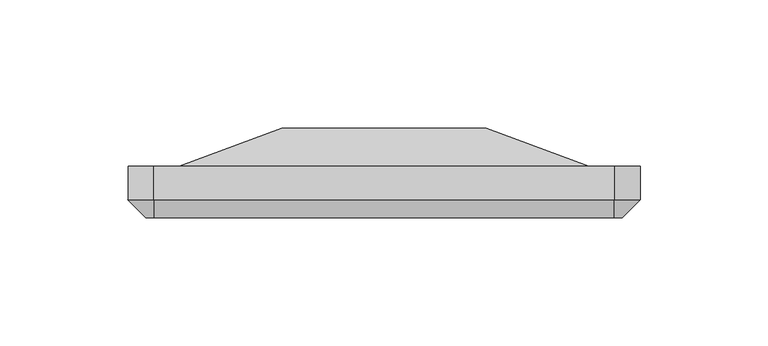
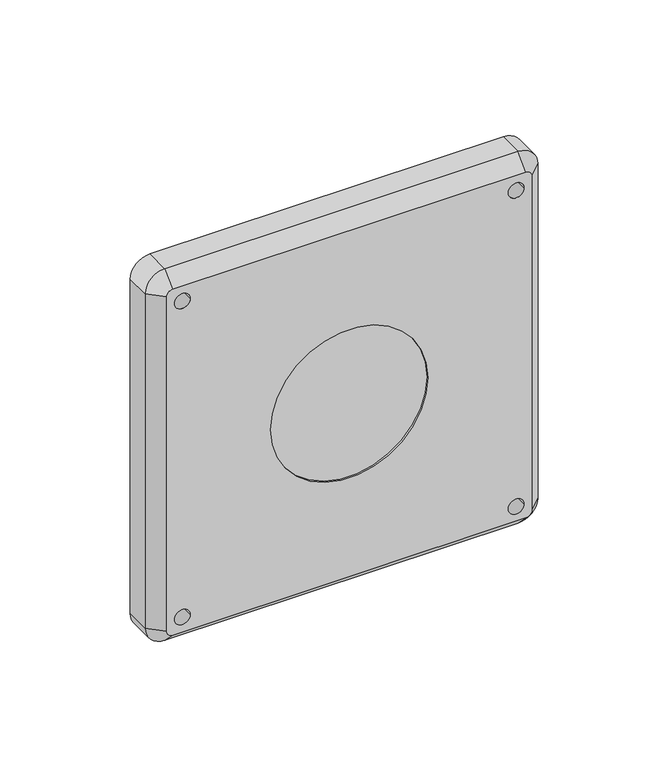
"""IFC4 building model written with IfcOpenShell, lengths in millimetres: light fixture geometry, GENILED_Светильник светодиодный_Public : Public 15W 4200К."""

from ifc_helpers import new_model, si_unit, frame, origin, place, context, project, spatial, polyline, circle_curve, source, transform, mapped, element, save
from ifc_brep_helpers import plane_surface, cylinder_surface, revolved_surface, advanced_brep


def light_fixture_b82a3ef1(model_context):
    return source(origin(), model_context, "Body", "AdvancedBrep", [
        advanced_brep(
        [(-90.0, -35.0, 193.0), (-93.0, -35.0, 190.0), (-93.0, -35.0, 10.0), (-90.0, -35.0, 7.0), (90.0, -35.0, 7.0), (93.0, -35.0, 10.0), (93.0, -35.0, 190.0), (90.0, -35.0, 193.0), (-89.0502525, -35.0, 185.0502525), (-81.0502525, -35.0, 185.0502525), (81.0502525, -35.0, 185.0502525), (89.0502525, -35.0, 185.0502525), (-89.0502525, -35.0, 14.9497475), (-81.0502525, -35.0, 14.9497475), (81.0502525, -35.0, 14.9497475), (89.0502525, -35.0, 14.9497475), (40.0, -35.0, 100.0), (-40.0, -35.0, 100.0), (90.0, -15.0, 200.0), (100.0, -15.0, 190.0), (100.0, -15.0, 10.0), (90.0, -15.0, 0.0), (-90.0, -15.0, 0.0), (-100.0, -15.0, 10.0), (-100.0, -15.0, 190.0), (-90.0, -15.0, 200.0), (-89.0502525, -15.0, 185.0502525), (-81.0502525, -15.0, 185.0502525), (81.0502525, -15.0, 185.0502525), (89.0502525, -15.0, 185.0502525), (-89.0502525, -15.0, 14.9497475), (-81.0502525, -15.0, 14.9497475), (81.0502525, -15.0, 14.9497475), (89.0502525, -15.0, 14.9497475), (80.0, -15.0, 180.0), (-80.0, -15.0, 180.0), (-80.0, -15.0, 20.0), (80.0, -15.0, 20.0), (-90.0, -28.0, 200.0), (90.0, -28.0, 200.0), (-100.0, -28.0, 190.0), (-100.0, -28.0, 10.0), (-90.0, -28.0, 0.0), (90.0, -28.0, 0.0), (100.0, -28.0, 10.0), (100.0, -28.0, 190.0), (-40.0, -34.0, 100.0), (40.0, -34.0, 100.0), (40.0, 0.0, 140.0), (40.0, 0.0, 60.0), (-40.0, 0.0, 60.0), (-40.0, 0.0, 140.0)],
        [
            (0, 1, circle_curve(frame((-90.0, -35.0, 190.0), z_axis=(0.0, -1.0, 0.0), x_axis=(0.0, 0.0, 1.0)), 3.0)),
            (1, 2),
            (2, 3, circle_curve(frame((-90.0, -35.0, 10.0), z_axis=(0.0, -1.0, 0.0), x_axis=(-1.0, 0.0, 0.0)), 3.0)),
            (3, 4),
            (4, 5, circle_curve(frame((90.0, -35.0, 10.0), z_axis=(0.0, -1.0, 0.0), x_axis=(0.0, 0.0, -1.0)), 3.0)),
            (5, 6),
            (6, 7, circle_curve(frame((90.0, -35.0, 190.0), z_axis=(0.0, -1.0, 0.0), x_axis=(1.0, 0.0, 0.0)), 3.0)),
            (7, 0),
            (8, 9, circle_curve(frame((-85.0502525, -35.0, 185.0502525), z_axis=(0.0, 1.0, 0.0), x_axis=(1.0, 0.0, 0.0)), 4.0)),
            (9, 8, circle_curve(frame((-85.0502525, -35.0, 185.0502525), z_axis=(0.0, 1.0, 0.0), x_axis=(1.0, 0.0, 0.0)), 4.0)),
            (10, 11, circle_curve(frame((85.0502525, -35.0, 185.0502525), z_axis=(0.0, 1.0, 0.0), x_axis=(1.0, 0.0, 0.0)), 4.0)),
            (11, 10, circle_curve(frame((85.0502525, -35.0, 185.0502525), z_axis=(0.0, 1.0, 0.0), x_axis=(1.0, 0.0, 0.0)), 4.0)),
            (12, 13, circle_curve(frame((-85.0502525, -35.0, 14.9497475), z_axis=(0.0, 1.0, 0.0), x_axis=(1.0, 0.0, 0.0)), 4.0)),
            (13, 12, circle_curve(frame((-85.0502525, -35.0, 14.9497475), z_axis=(0.0, 1.0, 0.0), x_axis=(1.0, 0.0, 0.0)), 4.0)),
            (14, 15, circle_curve(frame((85.0502525, -35.0, 14.9497475), z_axis=(0.0, 1.0, 0.0), x_axis=(1.0, 0.0, 0.0)), 4.0)),
            (15, 14, circle_curve(frame((85.0502525, -35.0, 14.9497475), z_axis=(0.0, 1.0, 0.0), x_axis=(1.0, 0.0, 0.0)), 4.0)),
            (16, 17, circle_curve(frame((0.0, -35.0, 100.0), z_axis=(0.0, 1.0, 0.0), x_axis=(1.0, 0.0, 0.0)), 40.0)),
            (17, 16, circle_curve(frame((0.0, -35.0, 100.0), z_axis=(0.0, 1.0, 0.0), x_axis=(1.0, 0.0, 0.0)), 40.0)),
            (18, 19, circle_curve(frame((90.0, -15.0, 190.0), z_axis=(0.0, 1.0, 0.0), x_axis=(1.0, 0.0, 0.0)), 10.0)),
            (19, 20),
            (20, 21, circle_curve(frame((90.0, -15.0, 10.0), z_axis=(0.0, 1.0, 0.0), x_axis=(1.0, 0.0, 0.0)), 10.0)),
            (21, 22),
            (22, 23, circle_curve(frame((-90.0, -15.0, 10.0), z_axis=(0.0, 1.0, 0.0), x_axis=(1.0, 0.0, 0.0)), 10.0)),
            (23, 24),
            (24, 25, circle_curve(frame((-90.0, -15.0, 190.0), z_axis=(0.0, 1.0, 0.0), x_axis=(1.0, 0.0, 0.0)), 10.0)),
            (25, 18),
            (26, 27, circle_curve(frame((-85.0502525, -15.0, 185.0502525), z_axis=(0.0, -1.0, 0.0), x_axis=(1.0, 0.0, 0.0)), 4.0)),
            (27, 26, circle_curve(frame((-85.0502525, -15.0, 185.0502525), z_axis=(0.0, -1.0, 0.0), x_axis=(1.0, 0.0, 0.0)), 4.0)),
            (28, 29, circle_curve(frame((85.0502525, -15.0, 185.0502525), z_axis=(0.0, -1.0, 0.0), x_axis=(1.0, 0.0, 0.0)), 4.0)),
            (29, 28, circle_curve(frame((85.0502525, -15.0, 185.0502525), z_axis=(0.0, -1.0, 0.0), x_axis=(1.0, 0.0, 0.0)), 4.0)),
            (30, 31, circle_curve(frame((-85.0502525, -15.0, 14.9497475), z_axis=(0.0, -1.0, 0.0), x_axis=(1.0, 0.0, 0.0)), 4.0)),
            (31, 30, circle_curve(frame((-85.0502525, -15.0, 14.9497475), z_axis=(0.0, -1.0, 0.0), x_axis=(1.0, 0.0, 0.0)), 4.0)),
            (32, 33, circle_curve(frame((85.0502525, -15.0, 14.9497475), z_axis=(0.0, -1.0, 0.0), x_axis=(1.0, 0.0, 0.0)), 4.0)),
            (33, 32, circle_curve(frame((85.0502525, -15.0, 14.9497475), z_axis=(0.0, -1.0, 0.0), x_axis=(1.0, 0.0, 0.0)), 4.0)),
            (34, 35),
            (35, 36),
            (36, 37),
            (37, 34),
            (25, 38),
            (38, 39),
            (39, 18),
            (24, 40),
            (40, 38, circle_curve(frame((-90.0, -28.0, 190.0), z_axis=(0.0, 1.0, 0.0), x_axis=(1.0, 0.0, 0.0)), 10.0)),
            (23, 41),
            (41, 40),
            (22, 42),
            (42, 41, circle_curve(frame((-90.0, -28.0, 10.0), z_axis=(0.0, 1.0, 0.0), x_axis=(1.0, 0.0, 0.0)), 10.0)),
            (21, 43),
            (43, 42),
            (20, 44),
            (44, 43, circle_curve(frame((90.0, -28.0, 10.0), z_axis=(0.0, 1.0, 0.0), x_axis=(1.0, 0.0, 0.0)), 10.0)),
            (19, 45),
            (45, 44),
            (39, 45, circle_curve(frame((90.0, -28.0, 190.0), z_axis=(0.0, 1.0, 0.0), x_axis=(1.0, 0.0, 0.0)), 10.0)),
            (8, 26),
            (27, 9),
            (10, 28),
            (29, 11),
            (12, 30),
            (31, 13),
            (14, 32),
            (33, 15),
            (40, 1),
            (0, 38),
            (41, 2),
            (42, 3),
            (43, 4),
            (44, 5),
            (45, 6),
            (39, 7),
            (46, 47, circle_curve(frame((0.0, -34.0, 100.0), z_axis=(0.0, -1.0, 0.0), x_axis=(1.0, 0.0, 0.0)), 40.0)),
            (47, 46, circle_curve(frame((0.0, -34.0, 100.0), z_axis=(0.0, -1.0, 0.0), x_axis=(1.0, 0.0, 0.0)), 40.0)),
            (46, 17),
            (16, 47),
            (48, 49),
            (49, 50),
            (50, 51),
            (51, 48),
            (51, 35),
            (34, 48),
            (50, 36),
            (49, 37),
        ],
        [
            plane_surface(frame((-90.0, -35.0, 200.0), z_axis=(0.0, -1.0, 0.0), x_axis=(-1.0, 0.0, 0.0))),
            plane_surface(frame((-90.0, -15.0, 200.0), z_axis=(0.0, 1.0, 0.0), x_axis=(1.0, 0.0, 0.0))),
            plane_surface(frame((90.0, -35.0, 200.0), z_axis=(0.0, 0.0, 1.0), x_axis=(0.0, 1.0, 0.0))),
            cylinder_surface(frame((-90.0, -15.0, 190.0), z_axis=(0.0, -1.0, 0.0), x_axis=(1.0, 0.0, 0.0)), 10.0),
            plane_surface(frame((-100.0, -35.0, 190.0), z_axis=(-1.0, 0.0, 0.0), x_axis=(0.0, 1.0, 0.0))),
            cylinder_surface(frame((-90.0, -15.0, 10.0), z_axis=(0.0, -1.0, 0.0), x_axis=(1.0, 0.0, 0.0)), 10.0),
            plane_surface(frame((-90.0, -35.0, 0.0), z_axis=(0.0, 0.0, -1.0), x_axis=(0.0, 1.0, 0.0))),
            cylinder_surface(frame((90.0, -15.0, 10.0), z_axis=(0.0, -1.0, 0.0), x_axis=(1.0, 0.0, 0.0)), 10.0),
            plane_surface(frame((100.0, -35.0, 10.0), z_axis=(1.0, 0.0, 0.0), x_axis=(0.0, 1.0, 0.0))),
            cylinder_surface(frame((90.0, -15.0, 190.0), z_axis=(0.0, -1.0, 0.0), x_axis=(1.0, 0.0, 0.0)), 10.0),
            revolved_surface(polyline([(-81.0502525, -15.0, 185.0502525), (-81.0502525, -35.0, 185.0502525)]), (-85.0502525, 0.0, 185.0502525), (0.0, 1.0, 0.0)),
            revolved_surface(polyline([(89.0502525, -15.0, 185.0502525), (89.0502525, -35.0, 185.0502525)]), (85.0502525, 0.0, 185.0502525), (0.0, 1.0, 0.0)),
            revolved_surface(polyline([(-81.0502525, -15.0, 14.9497475), (-81.0502525, -35.0, 14.9497475)]), (-85.0502525, 0.0, 14.9497475), (0.0, 1.0, 0.0)),
            revolved_surface(polyline([(89.0502525, -15.0, 14.9497475), (89.0502525, -35.0, 14.9497475)]), (85.0502525, 0.0, 14.9497475), (0.0, 1.0, 0.0)),
            revolved_surface(polyline([(-90.0, -28.0, 200.0), (-90.0, -35.0, 193.0)]), (-90.0, -35.0, 190.0), (0.0, -1.0, 0.0)),
            plane_surface(frame((-93.0, -35.0, 190.0), z_axis=(-0.7071067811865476, -0.7071067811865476, 0.0), x_axis=(0.0, 0.0, -1.0))),
            revolved_surface(polyline([(-100.0, -28.0, 10.0), (-93.0, -35.0, 10.0)]), (-90.0, -35.0, 10.0), (0.0, -1.0, 0.0)),
            plane_surface(frame((-90.0, -35.0, 7.0), z_axis=(0.0, -0.7071067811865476, -0.7071067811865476), x_axis=(1.0, 0.0, 0.0))),
            revolved_surface(polyline([(90.0, -28.0, 0.0), (90.0, -35.0, 7.0)]), (90.0, -35.0, 10.0), (0.0, -1.0, 0.0)),
            plane_surface(frame((93.0, -35.0, 10.0), z_axis=(0.7071067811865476, -0.7071067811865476, 0.0), x_axis=(0.0, 0.0, 1.0))),
            revolved_surface(polyline([(100.0, -28.0, 190.0), (93.0, -35.0, 190.0)]), (90.0, -35.0, 190.0), (0.0, -1.0, 0.0)),
            plane_surface(frame((90.0, -35.0, 193.0), z_axis=(0.0, -0.7071067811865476, 0.7071067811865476), x_axis=(-1.0, 0.0, 0.0))),
            plane_surface(frame((40.0, -34.0, 100.0), z_axis=(0.0, -1.0, 0.0), x_axis=(0.0, 0.0, -1.0))),
            revolved_surface(polyline([(40.0, -35.0, 100.0), (40.0, -34.0, 100.0)]), (0.0, -34.0, 100.0), (0.0, -1.0, 0.0)),
            plane_surface(frame((0.0, 0.0, 100.0), z_axis=(0.0, 1.0, 0.0), x_axis=(-1.0, 0.0, 0.0))),
            plane_surface(frame((0.0, -15.0, 180.0), z_axis=(0.0, 0.9363291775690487, 0.3511234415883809), x_axis=(1.0, 0.0, 0.0))),
            plane_surface(frame((-80.0, -15.0, 100.0), z_axis=(-0.3511234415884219, 0.9363291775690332, 0.0), x_axis=(0.0, 0.0, 1.0))),
            plane_surface(frame((0.0, -15.0, 20.0), z_axis=(0.0, 0.936329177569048, -0.35112344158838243), x_axis=(-1.0, 0.0, 0.0))),
            plane_surface(frame((80.0, -15.0, 100.0), z_axis=(0.3511234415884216, 0.9363291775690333, 0.0), x_axis=(0.0, 0.0, -1.0))),
        ],
        [
            (0, [[1, 2, 3, 4, 5, 6, 7, 8], [9, 10], [11, 12], [13, 14], [15, 16], [17, 18]]),
            (1, [[19, 20, 21, 22, 23, 24, 25, 26], [27, 28], [29, 30], [31, 32], [33, 34], [35, 36, 37, 38]]),
            (2, [[-26, 39, 40, 41]]),
            (3, [[-25, 42, 43, -39]]),
            (4, [[-24, 44, 45, -42]]),
            (5, [[-23, 46, 47, -44]]),
            (6, [[-22, 48, 49, -46]]),
            (7, [[-21, 50, 51, -48]]),
            (8, [[-20, 52, 53, -50]]),
            (9, [[-19, -41, 54, -52]]),
            (10, [[-9, 55, -28, 56]]),
            (10, [[-10, -56, -27, -55]]),
            (11, [[-11, 57, -30, 58]]),
            (11, [[-12, -58, -29, -57]]),
            (12, [[-13, 59, -32, 60]]),
            (12, [[-14, -60, -31, -59]]),
            (13, [[-15, 61, -34, 62]]),
            (13, [[-16, -62, -33, -61]]),
            (14, [[63, -1, 64, -43]]),
            (15, [[-63, -45, 65, -2]]),
            (16, [[-65, -47, 66, -3]]),
            (17, [[-66, -49, 67, -4]]),
            (18, [[-67, -51, 68, -5]]),
            (19, [[-68, -53, 69, -6]]),
            (20, [[-69, -54, 70, -7]]),
            (21, [[-64, -8, -70, -40]]),
            (22, [[71, 72]]),
            (23, [[-71, 73, -17, 74]]),
            (23, [[-72, -74, -18, -73]]),
            (24, [[75, 76, 77, 78]]),
            (25, [[-78, 79, -35, 80]]),
            (26, [[-77, 81, -36, -79]]),
            (27, [[-76, 82, -37, -81]]),
            (28, [[-75, -80, -38, -82]]),
        ],
    ),
    ])


if __name__ == "__main__":
    model = new_model("IFC4")
    model_context = context("Model", 3, world=origin())
    ifc_project = project(units=[si_unit("LENGTHUNIT", "METRE", prefix="MILLI")], contexts=[model_context])
    site = spatial("IfcSite", under=ifc_project)
    building = spatial("IfcBuilding", under=site)
    placement = place(None, origin())
    light_fixture_shape = light_fixture_b82a3ef1(model_context)
    element("IfcLightFixture", 1, ObjectType="GENILED_Светильник светодиодный_Public : Public 15W 4200К", at=placement, inside=building, context=model_context, shape_type="MappedRepresentation", body=[
        mapped(light_fixture_shape, transform((0.0, 0.0, 0.0), x_axis=(1.0, 0.0, 0.0), y_axis=(0.0, 1.0, 0.0), z_axis=(0.0, 0.0, 1.0))),
    ])
    save(model, "model.ifc")
